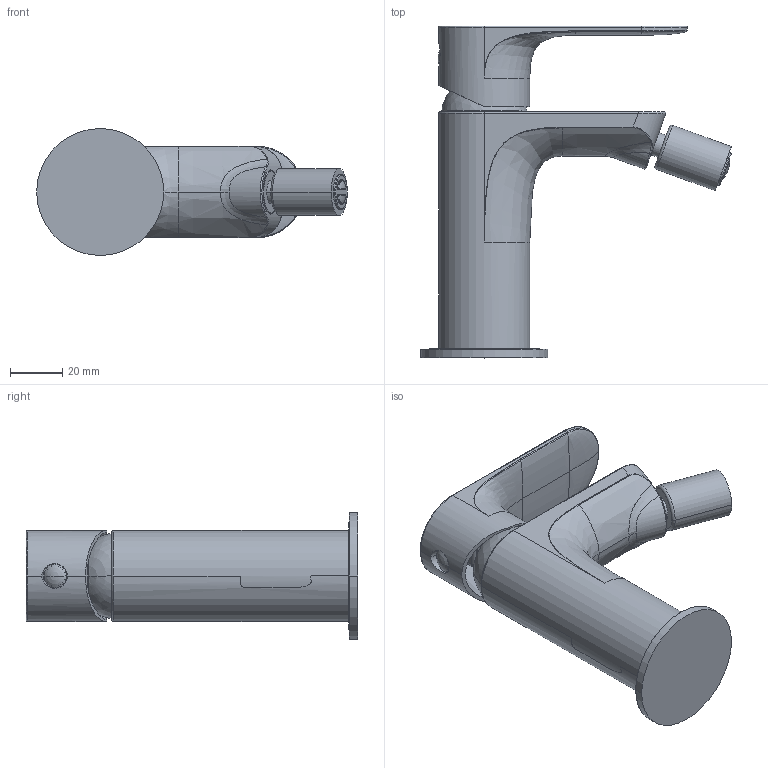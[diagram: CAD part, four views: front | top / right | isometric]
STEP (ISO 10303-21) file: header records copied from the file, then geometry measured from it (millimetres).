
FILE_DESCRIPTION((''),'2;1');
FILE_NAME('64080_SW0001','2021-09-10T11:08:06',('carloff'),(''),'CREO PARAMETRIC BY PTC INC, 2018100','CREO PARAMETRIC BY PTC INC, 2018100','');
FILE_SCHEMA(('CONFIG_CONTROL_DESIGN'));
Length unit declared in the file: millimetre
Products named in the file (1): 64080_SW0001
Bounding box: 119.34 x 127.5 x 48.8 mm (x, y, z)
Volume: 153575.1 mm3; surface area: 36164.5 mm2
Topology: 1 solids, 1 shells, 387 faces, 1026 edges, 640 vertices
Faces by surface type: torus 115, plane 114, cylinder 82, bspline 43, cone 17, sphere 10, extrusion 6
Entity records: 18134 total; most frequent: CARTESIAN_POINT 8946, ORIENTED_EDGE 2036, DIRECTION 1817, EDGE_CURVE 1018, AXIS2_PLACEMENT_3D 753, VERTEX_POINT 640, CIRCLE 415, EDGE_LOOP 402
